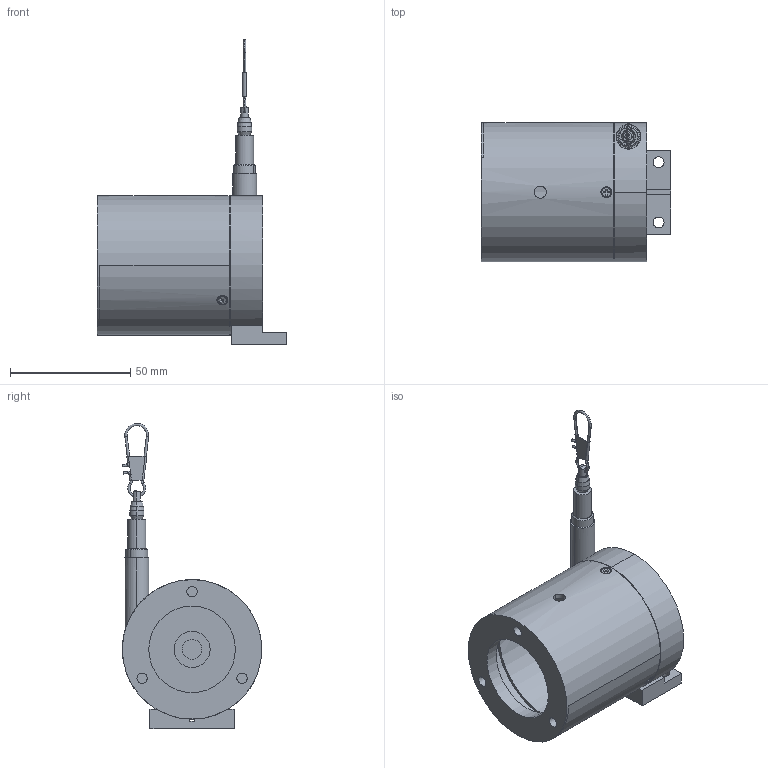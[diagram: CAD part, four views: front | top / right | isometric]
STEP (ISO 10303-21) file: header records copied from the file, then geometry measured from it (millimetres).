
FILE_DESCRIPTION((''),'2;1');
FILE_NAME('','2007-05-29T',(''),(''),'PRO/ENGINEER BY PARAMETRIC TECHNOLOGY CORPORATION, 2003250','PRO/ENGINEER BY PARAMETRIC TECHNOLOGY CORPORATION, 2003250','');
FILE_SCHEMA(('CONFIG_CONTROL_DESIGN'));
Length unit declared in the file: millimetre
Bounding box: 78.7 x 58.06 x 126.99 mm (x, y, z)
Volume: 56942 mm3; surface area: 46675.7 mm2
Topology: 1 solids, 4 shells, 338 faces, 853 edges, 531 vertices
Faces by surface type: cylinder 134, plane 120, cone 58, torus 20, bspline 4, sphere 2
Entity records: 11346 total; most frequent: CARTESIAN_POINT 3194, DIRECTION 1714, ORIENTED_EDGE 1654, EDGE_CURVE 827, AXIS2_PLACEMENT_3D 655, VERTEX_POINT 531, EDGE_LOOP 406, VECTOR 404
